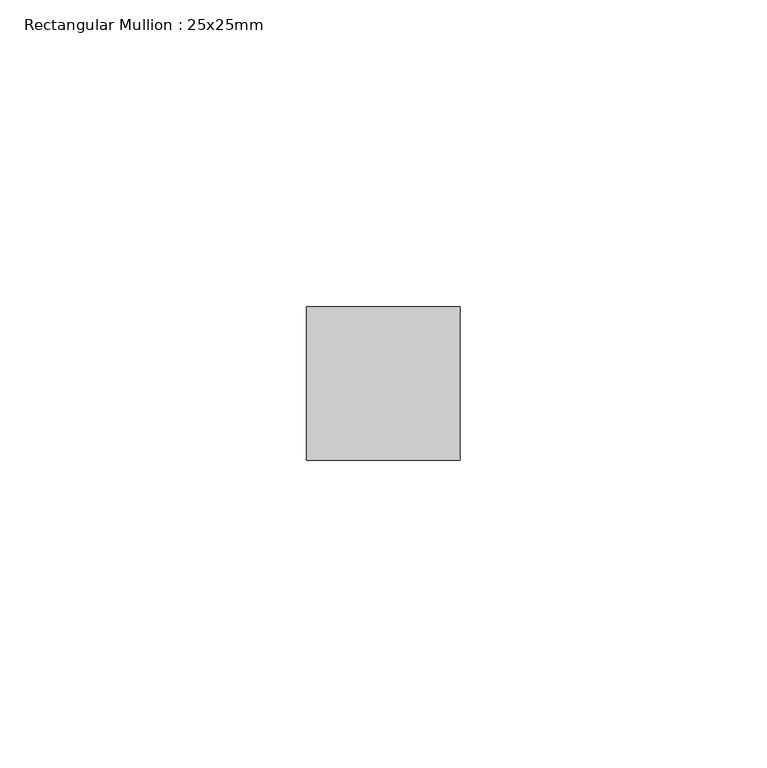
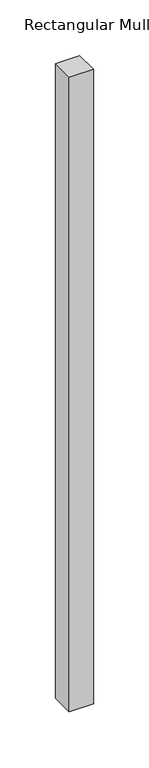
"""IFC4 building model written with IfcOpenShell, lengths in millimetres: member geometry, Rectangular Mullion : 25x25mm."""

from ifc_helpers import new_model, si_unit, frame, origin, place, context, project, spatial, polyline, outline, extrude, source, transform, mapped, element, save


def rectangular_mullion_25x25mm_82e2e498(model_context):
    return source(origin(), model_context, "Body", "SweptSolid", [
        extrude(outline(polyline([(12.5, 24.5), (12.5, -0.5), (-12.5, -0.5), (-12.5, 24.5), (12.5, 24.5)])), frame((0.0, 0.0, -697.5000001), z_axis=(0.0, 0.0, 1.0), x_axis=(1.0, 0.0, 0.0)), (0.0, 0.0, 1.0), 697.5000001),
    ])


if __name__ == "__main__":
    model = new_model("IFC4")
    model_context = context("Model", 3, world=origin())
    ifc_project = project(units=[si_unit("LENGTHUNIT", "METRE", prefix="MILLI")], contexts=[model_context])
    site = spatial("IfcSite", under=ifc_project)
    building = spatial("IfcBuilding", under=site)
    placement = place(None, origin())
    rectangular_mullion_25x25mm_shape = rectangular_mullion_25x25mm_82e2e498(model_context)
    element("IfcMember", 1, ObjectType="Rectangular Mullion : 25x25mm", at=placement, inside=building, context=model_context, shape_type="MappedRepresentation", body=[
        mapped(rectangular_mullion_25x25mm_shape, transform((0.0, 0.0, 0.0), x_axis=(1.0, 0.0, 0.0), y_axis=(0.0, 1.0, 0.0), z_axis=(0.0, 0.0, 1.0))),
    ])
    save(model, "model.ifc")
